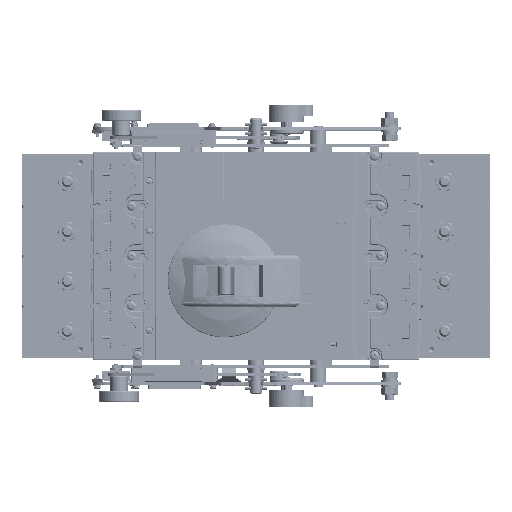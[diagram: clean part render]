
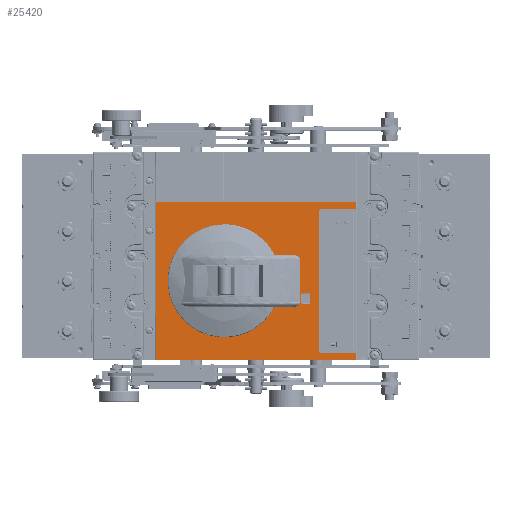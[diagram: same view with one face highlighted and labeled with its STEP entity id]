
A CAD part, top view. The second image highlights one B-rep face of the part: STEP entity #25420.
In plain terms, the highlighted planar face has unit normal (0, 0, 1).
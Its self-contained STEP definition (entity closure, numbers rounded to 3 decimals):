
#2351=B_SPLINE_CURVE_WITH_KNOTS('',3,(#434596,#434597,#434598,#434599,#434600,
#434601,#434602,#434603),.UNSPECIFIED.,.F.,.F.,(4,2,2,4),(0.,0.25,0.5,1.),
 .UNSPECIFIED.);
#2356=B_SPLINE_CURVE_WITH_KNOTS('',3,(#434664,#434665,#434666,#434667,#434668,
#434669,#434670,#434671),.UNSPECIFIED.,.F.,.F.,(4,2,2,4),(0.,0.5,
0.75,1.),.UNSPECIFIED.);
#25420=ADVANCED_FACE('',(#52155,#52156,#52157),#42013,.T.);
#42013=PLANE('',#314025);
#52155=FACE_BOUND('',#58117,.T.);
#52156=FACE_BOUND('',#58118,.T.);
#52157=FACE_BOUND('',#58119,.T.);
#58117=EDGE_LOOP('',(#93500,#93501,#93502,#93503,#93504,#93505,#93506,#93507));
#58118=EDGE_LOOP('',(#93508,#93509,#93510,#93511,#93512,#93513,#93514,#93515,
#93516,#93517));
#58119=EDGE_LOOP('',(#93518,#93519,#93520,#93521,#93522,#93523));
#78076=CIRCLE('',#313303,50.);
#78077=CIRCLE('',#313305,1.);
#78078=CIRCLE('',#313310,1.);
#78357=CIRCLE('',#314021,1.);
#78358=CIRCLE('',#314022,1.);
#78359=CIRCLE('',#314023,1.);
#78360=CIRCLE('',#314024,1.);
#93500=ORIENTED_EDGE('',*,*,#210027,.T.);
#93501=ORIENTED_EDGE('',*,*,#210028,.T.);
#93502=ORIENTED_EDGE('',*,*,#210029,.T.);
#93503=ORIENTED_EDGE('',*,*,#210030,.T.);
#93504=ORIENTED_EDGE('',*,*,#210031,.T.);
#93505=ORIENTED_EDGE('',*,*,#210032,.T.);
#93506=ORIENTED_EDGE('',*,*,#210033,.T.);
#93507=ORIENTED_EDGE('',*,*,#210034,.T.);
#93508=ORIENTED_EDGE('',*,*,#208912,.T.);
#93509=ORIENTED_EDGE('',*,*,#208909,.T.);
#93510=ORIENTED_EDGE('',*,*,#209674,.T.);
#93511=ORIENTED_EDGE('',*,*,#208975,.T.);
#93512=ORIENTED_EDGE('',*,*,#208985,.T.);
#93513=ORIENTED_EDGE('',*,*,#208906,.T.);
#93514=ORIENTED_EDGE('',*,*,#208902,.T.);
#93515=ORIENTED_EDGE('',*,*,#208898,.T.);
#93516=ORIENTED_EDGE('',*,*,#209008,.T.);
#93517=ORIENTED_EDGE('',*,*,#209014,.T.);
#93518=ORIENTED_EDGE('',*,*,#208897,.T.);
#93519=ORIENTED_EDGE('',*,*,#208894,.F.);
#93520=ORIENTED_EDGE('',*,*,#209222,.T.);
#93521=ORIENTED_EDGE('',*,*,#209272,.T.);
#93522=ORIENTED_EDGE('',*,*,#209214,.T.);
#93523=ORIENTED_EDGE('',*,*,#208887,.T.);
#179201=VERTEX_POINT('',#431977);
#179225=VERTEX_POINT('',#432124);
#179574=VERTEX_POINT('',#433764);
#179575=VERTEX_POINT('',#433765);
#179578=VERTEX_POINT('',#433786);
#179579=VERTEX_POINT('',#433788);
#179580=VERTEX_POINT('',#433798);
#179581=VERTEX_POINT('',#433799);
#179584=VERTEX_POINT('',#433807);
#179587=VERTEX_POINT('',#433815);
#179589=VERTEX_POINT('',#433820);
#179623=VERTEX_POINT('',#434031);
#179625=VERTEX_POINT('',#434037);
#179648=VERTEX_POINT('',#434103);
#179750=VERTEX_POINT('',#434604);
#179754=VERTEX_POINT('',#434663);
#180213=VERTEX_POINT('',#436664);
#180214=VERTEX_POINT('',#436665);
#180215=VERTEX_POINT('',#436667);
#180216=VERTEX_POINT('',#436669);
#180217=VERTEX_POINT('',#436671);
#180218=VERTEX_POINT('',#436673);
#180219=VERTEX_POINT('',#436675);
#180220=VERTEX_POINT('',#436677);
#208887=EDGE_CURVE('',#179574,#179575,#252766,.T.);
#208894=EDGE_CURVE('',#179578,#179579,#252768,.T.);
#208897=EDGE_CURVE('',#179575,#179579,#78076,.T.);
#208898=EDGE_CURVE('',#179580,#179581,#78077,.T.);
#208902=EDGE_CURVE('',#179584,#179580,#252772,.T.);
#208906=EDGE_CURVE('',#179587,#179584,#78078,.T.);
#208909=EDGE_CURVE('',#179201,#179589,#252776,.T.);
#208912=EDGE_CURVE('',#179225,#179201,#252779,.T.);
#208975=EDGE_CURVE('',#179623,#179625,#252806,.T.);
#208985=EDGE_CURVE('',#179625,#179587,#252816,.T.);
#209008=EDGE_CURVE('',#179581,#179648,#252835,.T.);
#209014=EDGE_CURVE('',#179648,#179225,#252841,.T.);
#209214=EDGE_CURVE('',#179750,#179574,#2351,.T.);
#209222=EDGE_CURVE('',#179578,#179754,#2356,.T.);
#209272=EDGE_CURVE('',#179754,#179750,#253034,.T.);
#209674=EDGE_CURVE('',#179589,#179623,#253299,.T.);
#210027=EDGE_CURVE('',#180213,#180214,#253541,.T.);
#210028=EDGE_CURVE('',#180214,#180215,#78357,.T.);
#210029=EDGE_CURVE('',#180215,#180216,#253542,.T.);
#210030=EDGE_CURVE('',#180216,#180217,#78358,.T.);
#210031=EDGE_CURVE('',#180217,#180218,#253543,.T.);
#210032=EDGE_CURVE('',#180218,#180219,#78359,.T.);
#210033=EDGE_CURVE('',#180219,#180220,#253544,.T.);
#210034=EDGE_CURVE('',#180220,#180213,#78360,.T.);
#252766=LINE('',#433763,#282960);
#252768=LINE('',#433787,#282962);
#252772=LINE('',#433806,#282966);
#252776=LINE('',#433821,#282970);
#252779=LINE('',#433825,#282973);
#252806=LINE('',#434039,#283000);
#252816=LINE('',#434060,#283010);
#252835=LINE('',#434104,#283029);
#252841=LINE('',#434114,#283035);
#253034=LINE('',#434887,#283232);
#253299=LINE('',#435761,#283497);
#253541=LINE('',#436663,#283739);
#253542=LINE('',#436668,#283740);
#253543=LINE('',#436672,#283741);
#253544=LINE('',#436676,#283742);
#282960=VECTOR('',#343795,1.);
#282962=VECTOR('',#343803,1.);
#282966=VECTOR('',#343819,1.);
#282970=VECTOR('',#343833,1.);
#282973=VECTOR('',#343838,1.);
#283000=VECTOR('',#343973,1.);
#283010=VECTOR('',#343989,1.);
#283029=VECTOR('',#344030,1.);
#283035=VECTOR('',#344038,1.);
#283232=VECTOR('',#344577,1.);
#283497=VECTOR('',#345388,1.);
#283739=VECTOR('',#346018,1.);
#283740=VECTOR('',#346021,1.);
#283741=VECTOR('',#346024,1.);
#283742=VECTOR('',#346027,1.);
#313303=AXIS2_PLACEMENT_3D('',#433795,#343807,#343808);
#313305=AXIS2_PLACEMENT_3D('',#433797,#343811,#343812);
#313310=AXIS2_PLACEMENT_3D('',#433814,#343826,#343827);
#314021=AXIS2_PLACEMENT_3D('',#436666,#346019,#346020);
#314022=AXIS2_PLACEMENT_3D('',#436670,#346022,#346023);
#314023=AXIS2_PLACEMENT_3D('',#436674,#346025,#346026);
#314024=AXIS2_PLACEMENT_3D('',#436678,#346028,#346029);
#314025=AXIS2_PLACEMENT_3D('',#436679,#346030,#346031);
#343795=DIRECTION('',(-1.,0.,0.));
#343803=DIRECTION('',(-1.,0.,0.));
#343807=DIRECTION('',(0.,0.,-1.));
#343808=DIRECTION('',(-1.,0.,0.));
#343811=DIRECTION('',(0.,0.,-1.));
#343812=DIRECTION('',(1.,0.,0.));
#343819=DIRECTION('',(0.,1.,0.));
#343826=DIRECTION('',(0.,0.,-1.));
#343827=DIRECTION('',(1.,0.,0.));
#343833=DIRECTION('',(0.,-1.,0.));
#343838=DIRECTION('',(-1.,0.,0.));
#343973=DIRECTION('',(0.,1.,0.));
#343989=DIRECTION('',(-1.,0.,0.));
#344030=DIRECTION('',(1.,0.,0.));
#344038=DIRECTION('',(0.,1.,0.));
#344577=DIRECTION('',(0.,-1.,0.));
#345388=DIRECTION('',(1.,0.,0.));
#346018=DIRECTION('',(1.,0.,0.));
#346019=DIRECTION('',(0.,0.,-1.));
#346020=DIRECTION('',(1.,0.,0.));
#346021=DIRECTION('',(0.,-1.,0.));
#346022=DIRECTION('',(0.,0.,-1.));
#346023=DIRECTION('',(1.,0.,0.));
#346024=DIRECTION('',(-1.,0.,0.));
#346025=DIRECTION('',(0.,0.,-1.));
#346026=DIRECTION('',(1.,0.,0.));
#346027=DIRECTION('',(0.,1.,0.));
#346028=DIRECTION('',(0.,0.,-1.));
#346029=DIRECTION('',(1.,0.,0.));
#346030=DIRECTION('',(0.,0.,1.));
#346031=DIRECTION('',(-1.,0.,0.));
#431977=CARTESIAN_POINT('',(57.012,93.2,210.698));
#432124=CARTESIAN_POINT('',(234.012,93.2,210.698));
#433763=CARTESIAN_POINT('',(184.284,1.,210.698));
#433764=CARTESIAN_POINT('',(177.844,1.,210.698));
#433765=CARTESIAN_POINT('',(161.908,1.,210.698));
#433786=CARTESIAN_POINT('',(177.844,47.,210.698));
#433787=CARTESIAN_POINT('',(184.284,47.,210.698));
#433788=CARTESIAN_POINT('',(161.908,47.,210.698));
#433795=CARTESIAN_POINT('',(117.512,24.,210.698));
#433797=CARTESIAN_POINT('',(202.112,86.2,210.698));
#433798=CARTESIAN_POINT('',(201.112,86.2,210.698));
#433799=CARTESIAN_POINT('',(202.112,87.2,210.698));
#433806=CARTESIAN_POINT('',(201.112,-39.2,210.698));
#433807=CARTESIAN_POINT('',(201.112,-38.2,210.698));
#433814=CARTESIAN_POINT('',(202.112,-38.2,210.698));
#433815=CARTESIAN_POINT('',(202.112,-39.2,210.698));
#433820=CARTESIAN_POINT('',(57.012,-45.5,210.698));
#433821=CARTESIAN_POINT('',(57.012,-45.5,210.698));
#433825=CARTESIAN_POINT('',(59.512,93.2,210.698));
#434031=CARTESIAN_POINT('',(234.012,-45.5,210.698));
#434037=CARTESIAN_POINT('',(234.012,-39.2,210.698));
#434039=CARTESIAN_POINT('',(234.012,-39.2,210.698));
#434060=CARTESIAN_POINT('',(231.512,-39.2,210.698));
#434103=CARTESIAN_POINT('',(234.012,87.2,210.698));
#434104=CARTESIAN_POINT('',(201.112,87.2,210.698));
#434114=CARTESIAN_POINT('',(234.012,93.2,210.698));
#434596=CARTESIAN_POINT('',(184.284,5.,210.698));
#434597=CARTESIAN_POINT('',(184.284,4.295,210.698));
#434598=CARTESIAN_POINT('',(183.985,3.63,210.698));
#434599=CARTESIAN_POINT('',(183.08,2.561,210.698));
#434600=CARTESIAN_POINT('',(182.497,2.158,210.698));
#434601=CARTESIAN_POINT('',(180.636,1.242,210.698));
#434602=CARTESIAN_POINT('',(179.237,1.,210.698));
#434603=CARTESIAN_POINT('',(177.844,1.,210.698));
#434604=CARTESIAN_POINT('',(184.284,5.,210.698));
#434663=CARTESIAN_POINT('',(184.284,43.,210.698));
#434664=CARTESIAN_POINT('',(177.844,47.,210.698));
#434665=CARTESIAN_POINT('',(179.238,47.,210.698));
#434666=CARTESIAN_POINT('',(180.62,46.764,210.698));
#434667=CARTESIAN_POINT('',(182.492,45.846,210.698));
#434668=CARTESIAN_POINT('',(183.077,45.44,210.698));
#434669=CARTESIAN_POINT('',(183.979,44.38,210.698));
#434670=CARTESIAN_POINT('',(184.284,43.706,210.698));
#434671=CARTESIAN_POINT('',(184.284,43.,210.698));
#434887=CARTESIAN_POINT('',(184.284,47.,210.698));
#435761=CARTESIAN_POINT('',(145.512,-45.5,210.698));
#436663=CARTESIAN_POINT('',(192.512,13.,210.698));
#436664=CARTESIAN_POINT('',(186.512,13.,210.698));
#436665=CARTESIAN_POINT('',(192.512,13.,210.698));
#436666=CARTESIAN_POINT('',(192.512,12.,210.698));
#436667=CARTESIAN_POINT('',(193.512,12.,210.698));
#436668=CARTESIAN_POINT('',(193.512,5.,210.698));
#436669=CARTESIAN_POINT('',(193.512,5.,210.698));
#436670=CARTESIAN_POINT('',(192.512,5.,210.698));
#436671=CARTESIAN_POINT('',(192.512,4.,210.698));
#436672=CARTESIAN_POINT('',(186.512,4.,210.698));
#436673=CARTESIAN_POINT('',(186.512,4.,210.698));
#436674=CARTESIAN_POINT('',(186.512,5.,210.698));
#436675=CARTESIAN_POINT('',(185.512,5.,210.698));
#436676=CARTESIAN_POINT('',(185.512,12.,210.698));
#436677=CARTESIAN_POINT('',(185.512,12.,210.698));
#436678=CARTESIAN_POINT('',(186.512,12.,210.698));
#436679=CARTESIAN_POINT('',(145.512,46.,210.698));
